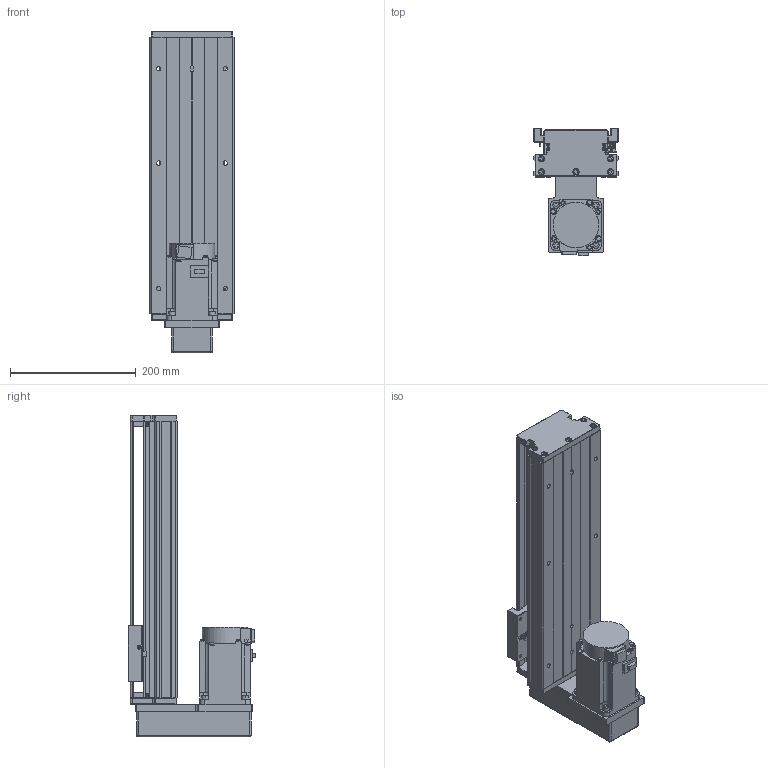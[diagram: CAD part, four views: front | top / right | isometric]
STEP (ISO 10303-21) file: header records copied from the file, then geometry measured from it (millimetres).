
FILE_DESCRIPTION (( 'STEP AP203' ), '1' );
FILE_NAME ('KTH130-300-BM-M75-C4.step', '2023-06-30T04:37:04', ( '微软用户' ), ( '微软中国' ), 'SwSTEP 2.0', 'SolidWorks 2020', '' );
FILE_SCHEMA (( 'CONFIG_CONTROL_DESIGN' ));
Length unit declared in the file: millimetre
Products named in the file (18): GB1155-6X6; hg-kn73j_-s100; GBT70.1 M5℅16; CTHA86-015-3_CTHA86-015-4; GBT 70.2-M3¡Á5_M3¡Á6; CTHA86-035; GTH14-001_300; CTHA60-017; GBT 70.1-M3℅5; KTH130-300-BM-M75-C4; KTH130-002_KTH130-002; EE_SX911P_R; GBT77-2000 M3×3; KTH130-004; CTHA60-016; す晦芛蹟隊 M3℅5; KTH130-005; GBT 70.3-M3℅8
Assembly tree (49 placements, depth 2):
  KTH130-300-BM-M75-C4
    GTH14-001_300
    KTH130-002_KTH130-002
    KTH130-004
    KTH130-005
    GB1155-6X6  x2
    GBT70.1 M5℅16  x10
    GBT 70.2-M3¡Á5_M3¡Á6  x4
    CTHA60-017  x3
    EE_SX911P_R  x3
    CTHA60-016  x2
    GBT 70.1-M3℅5  x6
    GBT77-2000 M3×3  x6
    す晦芛蹟隊 M3℅5  x2
    GBT 70.3-M3℅8  x4
    hg-kn73j_-s100
    CTHA86-015-3_CTHA86-015-4
    CTHA86-035
Bounding box: 135 x 202.8 x 512 mm (x, y, z)
Volume: 3931104 mm3; surface area: 570270.8 mm2
Topology: 52 solids, 52 shells, 2172 faces, 5268 edges, 3295 vertices
Faces by surface type: plane 1204, cylinder 614, cone 238, torus 100, sphere 16
Entity records: 39329 total; most frequent: CARTESIAN_POINT 6622, DIRECTION 6457, ORIENTED_EDGE 6040, EDGE_CURVE 3020, AXIS2_PLACEMENT_3D 2248, VECTOR 1961, LINE 1961, VERTEX_POINT 1929
